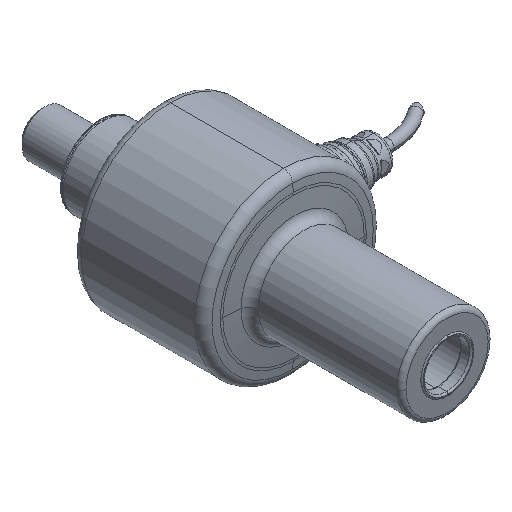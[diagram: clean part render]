
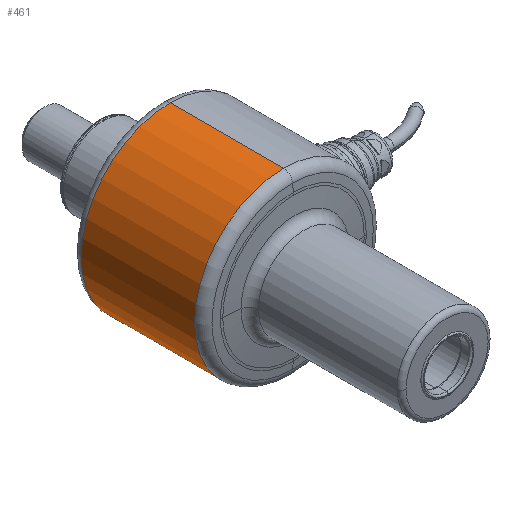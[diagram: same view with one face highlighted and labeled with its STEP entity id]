
A CAD part, isometric view. The second image highlights one B-rep face of the part: STEP entity #461.
In plain terms, the highlighted cylindrical face has radius 39 mm (diameter 78 mm), a partial arc.
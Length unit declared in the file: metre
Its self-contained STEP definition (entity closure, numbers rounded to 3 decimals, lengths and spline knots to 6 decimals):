
#461=ADVANCED_FACE('0:516',(#776),#777,.T.);
#776=FACE_OUTER_BOUND('',#1167,.T.);
#777=CYLINDRICAL_SURFACE('',#1168,0.039);
#1167=EDGE_LOOP('',(#2041,#2042,#2043,#2044));
#1168=AXIS2_PLACEMENT_3D('',#2045,#2046,#2047);
#2041=ORIENTED_EDGE('',*,*,#2745,.T.);
#2042=ORIENTED_EDGE('',*,*,#2766,.T.);
#2043=ORIENTED_EDGE('',*,*,#2747,.T.);
#2044=ORIENTED_EDGE('',*,*,#2769,.T.);
#2045=CARTESIAN_POINT('',(0.0,0.112,0.0));
#2046=DIRECTION('',(0.0,-1.0,0.0));
#2047=DIRECTION('',(0.0,0.0,1.0));
#2745=EDGE_CURVE('',#3208,#3209,#3210,.T.);
#2747=EDGE_CURVE('',#3213,#3211,#3214,.T.);
#2766=EDGE_CURVE('0:534',#3209,#3213,#3241,.T.);
#2769=EDGE_CURVE('0:543',#3211,#3208,#3244,.T.);
#3208=VERTEX_POINT('',#3805);
#3209=VERTEX_POINT('',#3806);
#3210=LINE('',#3807,#3808);
#3211=VERTEX_POINT('',#3809);
#3213=VERTEX_POINT('',#3811);
#3214=LINE('',#3812,#3813);
#3241=CIRCLE('',#4029,0.039);
#3244=CIRCLE('',#4032,0.039);
#3805=CARTESIAN_POINT('',(0.,0.015665,0.039));
#3806=CARTESIAN_POINT('',(0.,0.065335,0.039));
#3807=CARTESIAN_POINT('',(0.,0.0405,0.039));
#3808=VECTOR('',#4896,1.0);
#3809=CARTESIAN_POINT('',(0.,0.015665,-0.039));
#3811=CARTESIAN_POINT('',(0.,0.065335,-0.039));
#3812=CARTESIAN_POINT('',(0.,0.0405,-0.039));
#3813=VECTOR('',#4900,1.0);
#4029=AXIS2_PLACEMENT_3D('',#4931,#4932,#4933);
#4032=AXIS2_PLACEMENT_3D('',#4940,#4941,#4942);
#4896=DIRECTION('',(0.0,1.0,-0.0));
#4900=DIRECTION('',(0.0,-1.0,0.0));
#4931=CARTESIAN_POINT('',(0.0,0.065335,0.0));
#4932=DIRECTION('',(0.0,-1.0,0.0));
#4933=DIRECTION('',(0.0,0.0,-1.0));
#4940=CARTESIAN_POINT('',(0.0,0.015665,0.0));
#4941=DIRECTION('',(0.0,1.0,0.0));
#4942=DIRECTION('',(0.0,0.0,-1.0));
